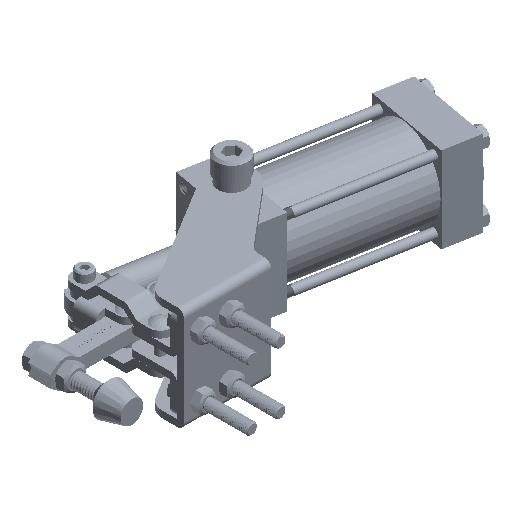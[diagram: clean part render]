
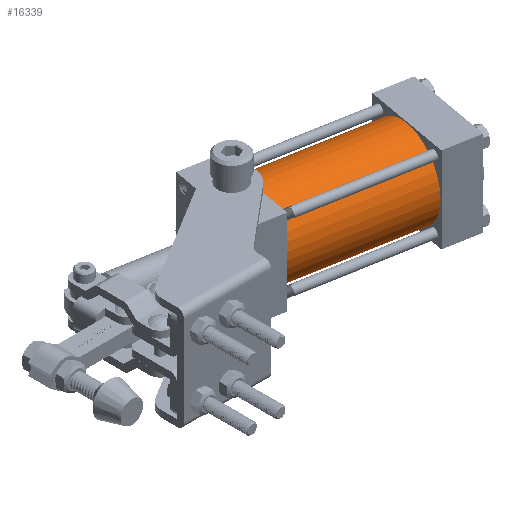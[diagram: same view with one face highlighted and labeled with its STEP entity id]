
A CAD part, isometric view. The second image highlights one B-rep face of the part: STEP entity #16339.
In plain terms, the highlighted cylindrical face has radius 18.5 mm (diameter 37 mm), a full revolution.
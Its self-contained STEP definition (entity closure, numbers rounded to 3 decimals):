
#1176=FACE_OUTER_BOUND('',#2042,.T.);
#2042=EDGE_LOOP('',(#11179,#11180,#11181,#11182,#11183,#11184));
#3052=CIRCLE('',#17589,18.5);
#3053=CIRCLE('',#17590,18.5);
#3054=CIRCLE('',#17591,18.5);
#3055=CIRCLE('',#17592,18.5);
#4285=LINE('',#24053,#5509);
#5509=VECTOR('',#18870,18.5);
#6810=VERTEX_POINT('',#24049);
#6811=VERTEX_POINT('',#24050);
#6812=VERTEX_POINT('',#24052);
#6813=VERTEX_POINT('',#24054);
#8608=EDGE_CURVE('',#6810,#6811,#3052,.T.);
#8609=EDGE_CURVE('',#6811,#6812,#4285,.T.);
#8610=EDGE_CURVE('',#6813,#6812,#3053,.T.);
#8611=EDGE_CURVE('',#6812,#6813,#3054,.T.);
#8612=EDGE_CURVE('',#6811,#6810,#3055,.T.);
#11179=ORIENTED_EDGE('',*,*,#8608,.T.);
#11180=ORIENTED_EDGE('',*,*,#8609,.T.);
#11181=ORIENTED_EDGE('',*,*,#8610,.F.);
#11182=ORIENTED_EDGE('',*,*,#8611,.F.);
#11183=ORIENTED_EDGE('',*,*,#8609,.F.);
#11184=ORIENTED_EDGE('',*,*,#8612,.T.);
#16115=CYLINDRICAL_SURFACE('',#17588,18.5);
#16339=ADVANCED_FACE('',(#1176),#16115,.T.);
#17588=AXIS2_PLACEMENT_3D('',#24048,#18866,#18867);
#17589=AXIS2_PLACEMENT_3D('',#24051,#18868,#18869);
#17590=AXIS2_PLACEMENT_3D('',#24055,#18871,#18872);
#17591=AXIS2_PLACEMENT_3D('',#24056,#18873,#18874);
#17592=AXIS2_PLACEMENT_3D('',#24057,#18875,#18876);
#18866=DIRECTION('center_axis',(0.,0.,-1.));
#18867=DIRECTION('ref_axis',(-1.,0.,0.));
#18868=DIRECTION('center_axis',(0.,0.,1.));
#18869=DIRECTION('ref_axis',(1.,0.,0.));
#18870=DIRECTION('',(0.,0.,1.));
#18871=DIRECTION('center_axis',(0.,0.,1.));
#18872=DIRECTION('ref_axis',(1.,0.,0.));
#18873=DIRECTION('center_axis',(0.,0.,1.));
#18874=DIRECTION('ref_axis',(1.,0.,0.));
#18875=DIRECTION('center_axis',(0.,0.,1.));
#18876=DIRECTION('ref_axis',(1.,0.,0.));
#24048=CARTESIAN_POINT('Origin',(0.,0.,78.));
#24049=CARTESIAN_POINT('',(-18.5,0.,19.));
#24050=CARTESIAN_POINT('',(18.5,0.,19.));
#24051=CARTESIAN_POINT('Origin',(0.,0.,19.));
#24052=CARTESIAN_POINT('',(18.5,0.,78.));
#24053=CARTESIAN_POINT('',(18.5,0.,78.));
#24054=CARTESIAN_POINT('',(-18.5,0.,78.));
#24055=CARTESIAN_POINT('Origin',(0.,0.,78.));
#24056=CARTESIAN_POINT('Origin',(0.,0.,78.));
#24057=CARTESIAN_POINT('Origin',(0.,0.,19.));
